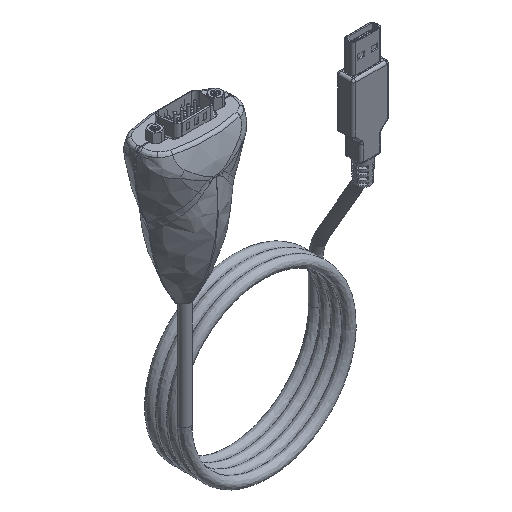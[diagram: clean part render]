
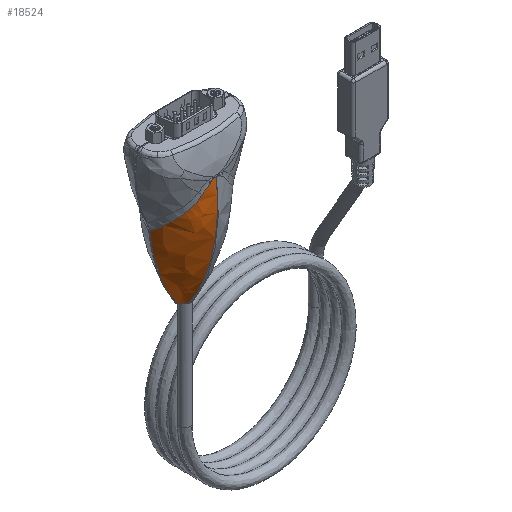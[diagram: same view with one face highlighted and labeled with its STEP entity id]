
A CAD part, isometric view. The second image highlights one B-rep face of the part: STEP entity #18524.
In plain terms, the highlighted free-form (B-spline) face has degree [2, 2] with [3, 3] control points.
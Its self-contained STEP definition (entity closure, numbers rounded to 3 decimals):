
#311=(
BOUNDED_SURFACE()
B_SPLINE_SURFACE(2,2,((#42124,#42125,#42126),(#42127,#42128,#42129),(#42130,
#42131,#42132)),.UNSPECIFIED.,.F.,.F.,.F.)
B_SPLINE_SURFACE_WITH_KNOTS((3,3),(3,3),(-0.459,0.189),
(1.573,2.946),.UNSPECIFIED.)
GEOMETRIC_REPRESENTATION_ITEM()
RATIONAL_B_SPLINE_SURFACE(((1.,0.773,1.),(0.948,
0.733,0.948),(1.,0.773,1.)))
REPRESENTATION_ITEM('')
SURFACE()
);
#1226=B_SPLINE_CURVE_WITH_KNOTS('',3,(#32230,#32231,#32232,#32233,#32234,
#32235),.UNSPECIFIED.,.F.,.F.,(4,2,4),(1.629,1.854,
1.993),.UNSPECIFIED.);
#1408=B_SPLINE_CURVE_WITH_KNOTS('',3,(#41683,#41684,#41685,#41686,#41687,
#41688,#41689,#41690,#41691,#41692,#41693,#41694,#41695,#41696),
 .UNSPECIFIED.,.F.,.F.,(4,2,2,2,2,2,4),(0.814,0.892,
1.448,2.003,2.678,3.353,3.962),
 .UNSPECIFIED.);
#1419=B_SPLINE_CURVE_WITH_KNOTS('',3,(#41853,#41854,#41855,#41856,#41857,
#41858,#41859),.UNSPECIFIED.,.F.,.F.,(4,3,4),(0.,0.012,0.025),
 .UNSPECIFIED.);
#1425=B_SPLINE_CURVE_WITH_KNOTS('',3,(#42134,#42135,#42136,#42137,#42138,
#42139,#42140,#42141),.UNSPECIFIED.,.F.,.F.,(4,1,1,1,1,4),(0.527,
0.883,1.239,2.664,4.089,5.514),
 .UNSPECIFIED.);
#1426=B_SPLINE_CURVE_WITH_KNOTS('',3,(#42143,#42144,#42145,#42146,#42147,
#42148,#42149,#42150,#42151,#42152),.UNSPECIFIED.,.F.,.F.,(4,2,2,2,4),(-0.731,
-0.612,-0.493,-0.423,-0.412),
 .UNSPECIFIED.);
#1427=B_SPLINE_CURVE_WITH_KNOTS('',3,(#42154,#42155,#42156,#42157),
 .UNSPECIFIED.,.F.,.F.,(4,4),(0.187,0.54),
 .UNSPECIFIED.);
#1428=B_SPLINE_CURVE_WITH_KNOTS('',3,(#42158,#42159,#42160,#42161,#42162,
#42163,#42164),.UNSPECIFIED.,.F.,.F.,(4,1,1,1,4),(0.,0.838,
1.257,2.096,2.934),.UNSPECIFIED.);
#2470=FACE_OUTER_BOUND('',#3659,.T.);
#3659=EDGE_LOOP('',(#16383,#16384,#16385,#16386,#16387,#16388,#16389));
#7542=VERTEX_POINT('',#27529);
#7938=VERTEX_POINT('',#32221);
#8673=VERTEX_POINT('',#41678);
#8674=VERTEX_POINT('',#41682);
#8707=VERTEX_POINT('',#42133);
#8708=VERTEX_POINT('',#42142);
#8709=VERTEX_POINT('',#42153);
#9944=EDGE_CURVE('',#7938,#7542,#1226,.T.);
#11259=EDGE_CURVE('',#8673,#8674,#1408,.T.);
#11305=EDGE_CURVE('',#7542,#8673,#1419,.T.);
#11322=EDGE_CURVE('',#7938,#8707,#1425,.T.);
#11323=EDGE_CURVE('',#8708,#8707,#1426,.T.);
#11324=EDGE_CURVE('',#8708,#8709,#1427,.T.);
#11325=EDGE_CURVE('',#8709,#8674,#1428,.T.);
#16383=ORIENTED_EDGE('',*,*,#11305,.F.);
#16384=ORIENTED_EDGE('',*,*,#9944,.F.);
#16385=ORIENTED_EDGE('',*,*,#11322,.T.);
#16386=ORIENTED_EDGE('',*,*,#11323,.F.);
#16387=ORIENTED_EDGE('',*,*,#11324,.T.);
#16388=ORIENTED_EDGE('',*,*,#11325,.T.);
#16389=ORIENTED_EDGE('',*,*,#11259,.F.);
#18524=ADVANCED_FACE('',(#2470),#311,.T.);
#27529=CARTESIAN_POINT('',(-3.935,0.,-63.524));
#32221=CARTESIAN_POINT('',(-1.221,-2.362,-63.594));
#32230=CARTESIAN_POINT('Ctrl Pts',(-1.221,-2.362,
-63.594));
#32231=CARTESIAN_POINT('Ctrl Pts',(-1.882,-2.012,
-63.588));
#32232=CARTESIAN_POINT('Ctrl Pts',(-2.492,-1.57,
-63.577));
#32233=CARTESIAN_POINT('Ctrl Pts',(-3.363,-0.724,
-63.55));
#32234=CARTESIAN_POINT('Ctrl Pts',(-3.665,-0.374,
-63.538));
#32235=CARTESIAN_POINT('Ctrl Pts',(-3.935,0.,
-63.524));
#41678=CARTESIAN_POINT('',(-3.787,-0.2,-63.529));
#41682=CARTESIAN_POINT('',(-14.879,-0.2,-32.217));
#41683=CARTESIAN_POINT('Ctrl Pts',(-3.787,-0.2,-63.529));
#41684=CARTESIAN_POINT('Ctrl Pts',(-3.952,-0.2,-63.304));
#41685=CARTESIAN_POINT('Ctrl Pts',(-4.11,-0.2,-63.082));
#41686=CARTESIAN_POINT('Ctrl Pts',(-5.318,-0.2,-61.347));
#41687=CARTESIAN_POINT('Ctrl Pts',(-6.36,-0.2,-59.603));
#41688=CARTESIAN_POINT('Ctrl Pts',(-8.25,-0.2,-56.008));
#41689=CARTESIAN_POINT('Ctrl Pts',(-9.097,-0.2,-54.157));
#41690=CARTESIAN_POINT('Ctrl Pts',(-10.657,-0.2,-50.364));
#41691=CARTESIAN_POINT('Ctrl Pts',(-11.447,-0.2,-48.145));
#41692=CARTESIAN_POINT('Ctrl Pts',(-12.827,-0.2,-43.54));
#41693=CARTESIAN_POINT('Ctrl Pts',(-13.418,-0.2,-41.155));
#41694=CARTESIAN_POINT('Ctrl Pts',(-14.315,-0.2,-36.574));
#41695=CARTESIAN_POINT('Ctrl Pts',(-14.646,-0.2,-34.382));
#41696=CARTESIAN_POINT('Ctrl Pts',(-14.879,-0.2,-32.217));
#41853=CARTESIAN_POINT('Ctrl Pts',(-3.935,0.,
-63.524));
#41854=CARTESIAN_POINT('Ctrl Pts',(-3.911,-0.034,
-63.525));
#41855=CARTESIAN_POINT('Ctrl Pts',(-3.887,-0.067,
-63.526));
#41856=CARTESIAN_POINT('Ctrl Pts',(-3.862,-0.1,
-63.527));
#41857=CARTESIAN_POINT('Ctrl Pts',(-3.838,-0.133,
-63.527));
#41858=CARTESIAN_POINT('Ctrl Pts',(-3.813,-0.167,
-63.528));
#41859=CARTESIAN_POINT('Ctrl Pts',(-3.787,-0.2,
-63.529));
#42124=CARTESIAN_POINT('Ctrl Pts',(2.603,-3.348,-63.446));
#42125=CARTESIAN_POINT('Ctrl Pts',(-3.914,-3.337,
-63.787));
#42126=CARTESIAN_POINT('Ctrl Pts',(-5.197,3.056,-63.518));
#42127=CARTESIAN_POINT('Ctrl Pts',(1.356,-16.475,-40.061));
#42128=CARTESIAN_POINT('Ctrl Pts',(-14.892,-16.446,-40.911));
#42129=CARTESIAN_POINT('Ctrl Pts',(-18.09,-0.507,
-40.242));
#42130=CARTESIAN_POINT('Ctrl Pts',(-0.027,-12.819,
-13.502));
#42131=CARTESIAN_POINT('Ctrl Pts',(-12.145,-12.797,-14.135));
#42132=CARTESIAN_POINT('Ctrl Pts',(-14.53,-0.91,-13.637));
#42133=CARTESIAN_POINT('',(-0.027,-12.819,-13.502));
#42134=CARTESIAN_POINT('Ctrl Pts',(-1.221,-2.362,
-63.594));
#42135=CARTESIAN_POINT('Ctrl Pts',(-1.081,-3.122,
-62.562));
#42136=CARTESIAN_POINT('Ctrl Pts',(-0.881,-4.471,
-60.437));
#42137=CARTESIAN_POINT('Ctrl Pts',(-0.516,-7.966,
-53.807));
#42138=CARTESIAN_POINT('Ctrl Pts',(-0.321,-11.71,
-43.166));
#42139=CARTESIAN_POINT('Ctrl Pts',(-0.16,-13.91,
-28.434));
#42140=CARTESIAN_POINT('Ctrl Pts',(-0.078,-13.491,
-18.406));
#42141=CARTESIAN_POINT('Ctrl Pts',(-0.027,-12.819,
-13.502));
#42142=CARTESIAN_POINT('',(-3.442,-12.652,-15.709));
#42143=CARTESIAN_POINT('Ctrl Pts',(-3.442,-12.652,
-15.709));
#42144=CARTESIAN_POINT('Ctrl Pts',(-3.048,-12.703,
-15.266));
#42145=CARTESIAN_POINT('Ctrl Pts',(-2.613,-12.742,
-14.824));
#42146=CARTESIAN_POINT('Ctrl Pts',(-1.694,-12.795,
-14.085));
#42147=CARTESIAN_POINT('Ctrl Pts',(-1.269,-12.806,-13.837));
#42148=CARTESIAN_POINT('Ctrl Pts',(-0.633,-12.816,
-13.598));
#42149=CARTESIAN_POINT('Ctrl Pts',(-0.394,-12.818,
-13.538));
#42150=CARTESIAN_POINT('Ctrl Pts',(-0.106,-12.819,
-13.507));
#42151=CARTESIAN_POINT('Ctrl Pts',(-0.066,-12.819,
-13.504));
#42152=CARTESIAN_POINT('Ctrl Pts',(-0.027,-12.819,
-13.502));
#42153=CARTESIAN_POINT('',(-5.199,-12.286,-17.684));
#42154=CARTESIAN_POINT('Ctrl Pts',(-3.441,-12.652,
-15.71));
#42155=CARTESIAN_POINT('Ctrl Pts',(-4.092,-12.548,
-16.247));
#42156=CARTESIAN_POINT('Ctrl Pts',(-4.683,-12.421,
-16.92));
#42157=CARTESIAN_POINT('Ctrl Pts',(-5.199,-12.286,
-17.684));
#42158=CARTESIAN_POINT('Ctrl Pts',(-5.199,-12.286,
-17.684));
#42159=CARTESIAN_POINT('Ctrl Pts',(-6.427,-11.963,
-19.498));
#42160=CARTESIAN_POINT('Ctrl Pts',(-8.478,-10.982,
-21.765));
#42161=CARTESIAN_POINT('Ctrl Pts',(-11.481,-8.376,
-25.099));
#42162=CARTESIAN_POINT('Ctrl Pts',(-13.86,-4.947,-28.156));
#42163=CARTESIAN_POINT('Ctrl Pts',(-14.727,-1.766,
-30.782));
#42164=CARTESIAN_POINT('Ctrl Pts',(-14.879,-0.2,
-32.217));
